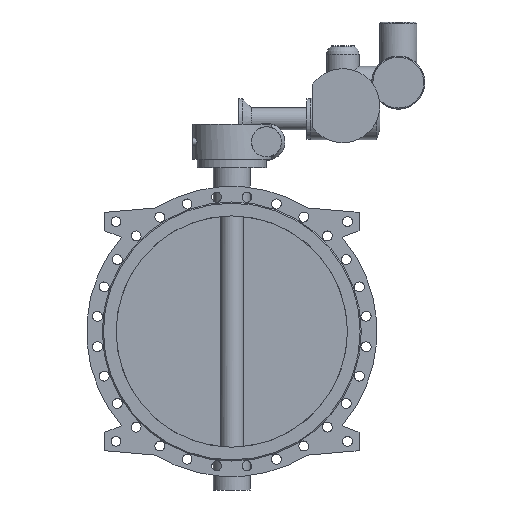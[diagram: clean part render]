
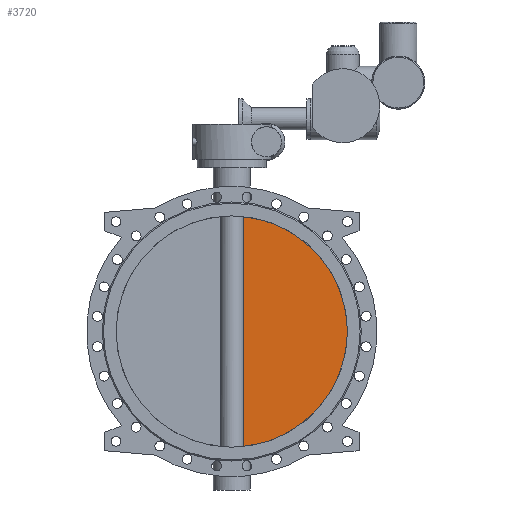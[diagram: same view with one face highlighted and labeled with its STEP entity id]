
A CAD part, front view. The second image highlights one B-rep face of the part: STEP entity #3720.
In plain terms, the highlighted planar face has unit normal (0, -1, 0).
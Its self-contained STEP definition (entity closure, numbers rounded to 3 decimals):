
#3720=ADVANCED_FACE('',(#7112),#7114,.T.);
#7112=FACE_BOUND('',#7113,.T.);
#7113=EDGE_LOOP('',(#9192,#9193));
#7114=PLANE('',#7115);
#7115=AXIS2_PLACEMENT_3D('',#7116,#7117,#7118);
#7116=CARTESIAN_POINT('',(0.,-10.,0.));
#7117=DIRECTION('',(0.,-1.,0.));
#7118=DIRECTION('',(1.,0.,0.));
#9192=ORIENTED_EDGE('',*,*,#10224,.T.);
#9193=ORIENTED_EDGE('',*,*,#10234,.T.);
#10224=EDGE_CURVE('',#11969,#11970,#11971,.F.);
#10234=EDGE_CURVE('',#11970,#11969,#11989,.T.);
#11969=VERTEX_POINT('',#18249);
#11970=VERTEX_POINT('',#18250);
#11971=CIRCLE('',#18251,500.);
#11989=LINE('',#18602,#18603);
#18249=CARTESIAN_POINT('',(48.99,-10.,-497.594));
#18250=CARTESIAN_POINT('',(48.99,-10.,497.594));
#18251=AXIS2_PLACEMENT_3D('',#18252,#18253,#18254);
#18252=CARTESIAN_POINT('',(0.,-10.,0.));
#18253=DIRECTION('',(0.,1.,0.));
#18254=DIRECTION('',(0.098,0.,0.995));
#18602=CARTESIAN_POINT('',(48.99,-10.,497.594));
#18603=VECTOR('',#18604,1.);
#18604=DIRECTION('',(0.,0.,-1.));
